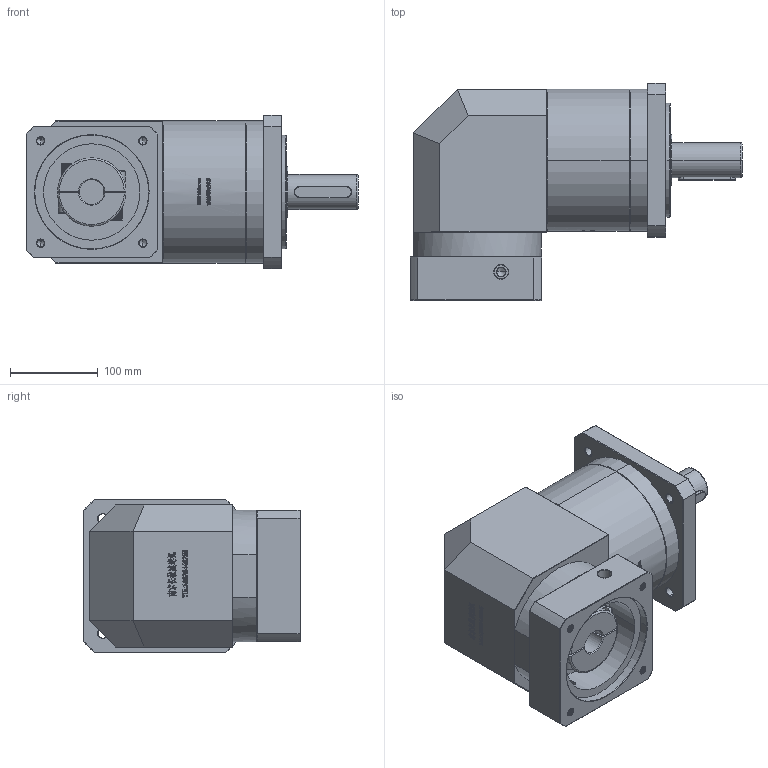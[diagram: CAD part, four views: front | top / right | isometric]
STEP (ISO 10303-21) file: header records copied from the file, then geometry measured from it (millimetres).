
FILE_DESCRIPTION (( 'STEP AP214' ), '1' );
FILE_NAME ('ZFR160A-D40-L2-28-130-165-M10.step', '2023-03-22T11:44:19', ( '' ), ( '' ), 'SwSTEP 2.0', 'SolidWorks 2016', '' );
FILE_SCHEMA (( 'AUTOMOTIVE_DESIGN' ));
Length unit declared in the file: millimetre
Products named in the file (1): ZFR160A-D40-L2-28-130-165-M10
Bounding box: 378.7 x 247.5 x 175 mm (x, y, z)
Volume: 7451701.1 mm3; surface area: 461469.4 mm2
Topology: 6 solids, 6 shells, 2516 faces, 6616 edges, 4253 vertices
Faces by surface type: plane 1275, bspline 501, cylinder 411, cone 307, torus 22
Entity records: 143695 total; most frequent: CARTESIAN_POINT 58345, ORIENTED_EDGE 13172, DIRECTION 10006, EDGE_CURVE 6586, VERTEX_POINT 4253, VECTOR 4152, LINE 4152, AXIS2_PLACEMENT_3D 2927
